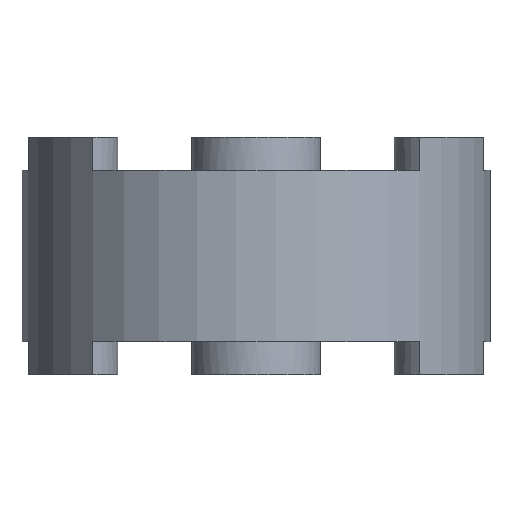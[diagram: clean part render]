
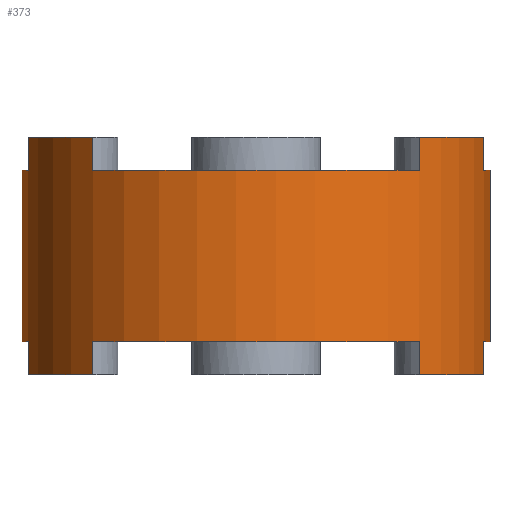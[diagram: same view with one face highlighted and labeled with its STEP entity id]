
A CAD part, front view. The second image highlights one B-rep face of the part: STEP entity #373.
In plain terms, the highlighted cylindrical face has radius 35.5 mm (diameter 71 mm), a full revolution.
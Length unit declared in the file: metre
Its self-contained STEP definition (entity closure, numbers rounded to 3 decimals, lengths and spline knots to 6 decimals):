
#12=LINE('',#662,#24);
#13=LINE('',#666,#25);
#14=LINE('',#667,#26);
#15=LINE('',#671,#27);
#16=LINE('',#672,#28);
#17=LINE('',#676,#29);
#18=LINE('',#677,#30);
#19=LINE('',#681,#31);
#20=LINE('',#682,#32);
#21=LINE('',#686,#33);
#22=LINE('',#687,#34);
#23=LINE('',#691,#35);
#24=VECTOR('',#532,1.);
#25=VECTOR('',#535,1.);
#26=VECTOR('',#536,1.);
#27=VECTOR('',#539,1.);
#28=VECTOR('',#540,1.);
#29=VECTOR('',#543,1.);
#30=VECTOR('',#544,1.);
#31=VECTOR('',#547,1.);
#32=VECTOR('',#548,1.);
#33=VECTOR('',#551,1.);
#34=VECTOR('',#552,1.);
#35=VECTOR('',#555,1.);
#36=CYLINDRICAL_SURFACE('',#433,0.0355);
#71=ORIENTED_EDGE('',*,*,#168,.T.);
#72=ORIENTED_EDGE('',*,*,#179,.T.);
#73=ORIENTED_EDGE('',*,*,#180,.T.);
#74=ORIENTED_EDGE('',*,*,#181,.F.);
#75=ORIENTED_EDGE('',*,*,#174,.T.);
#76=ORIENTED_EDGE('',*,*,#182,.T.);
#77=ORIENTED_EDGE('',*,*,#183,.T.);
#78=ORIENTED_EDGE('',*,*,#184,.F.);
#79=ORIENTED_EDGE('',*,*,#178,.T.);
#80=ORIENTED_EDGE('',*,*,#185,.T.);
#81=ORIENTED_EDGE('',*,*,#186,.T.);
#82=ORIENTED_EDGE('',*,*,#187,.F.);
#83=ORIENTED_EDGE('',*,*,#165,.F.);
#84=ORIENTED_EDGE('',*,*,#188,.F.);
#85=ORIENTED_EDGE('',*,*,#189,.F.);
#86=ORIENTED_EDGE('',*,*,#190,.T.);
#87=ORIENTED_EDGE('',*,*,#161,.F.);
#88=ORIENTED_EDGE('',*,*,#191,.F.);
#89=ORIENTED_EDGE('',*,*,#192,.F.);
#90=ORIENTED_EDGE('',*,*,#193,.T.);
#91=ORIENTED_EDGE('',*,*,#155,.F.);
#92=ORIENTED_EDGE('',*,*,#194,.F.);
#93=ORIENTED_EDGE('',*,*,#195,.F.);
#94=ORIENTED_EDGE('',*,*,#196,.T.);
#155=EDGE_CURVE('',#209,#210,#245,.T.);
#161=EDGE_CURVE('',#214,#215,#251,.T.);
#165=EDGE_CURVE('',#216,#217,#255,.T.);
#168=EDGE_CURVE('',#220,#218,#258,.T.);
#174=EDGE_CURVE('',#222,#224,#264,.T.);
#178=EDGE_CURVE('',#225,#226,#268,.T.);
#179=EDGE_CURVE('',#218,#227,#12,.T.);
#180=EDGE_CURVE('',#227,#228,#269,.T.);
#181=EDGE_CURVE('',#222,#228,#13,.T.);
#182=EDGE_CURVE('',#224,#229,#14,.T.);
#183=EDGE_CURVE('',#229,#230,#270,.T.);
#184=EDGE_CURVE('',#225,#230,#15,.T.);
#185=EDGE_CURVE('',#226,#231,#16,.T.);
#186=EDGE_CURVE('',#231,#232,#271,.T.);
#187=EDGE_CURVE('',#220,#232,#17,.T.);
#188=EDGE_CURVE('',#233,#216,#18,.T.);
#189=EDGE_CURVE('',#234,#233,#272,.T.);
#190=EDGE_CURVE('',#234,#215,#19,.T.);
#191=EDGE_CURVE('',#235,#214,#20,.T.);
#192=EDGE_CURVE('',#236,#235,#273,.T.);
#193=EDGE_CURVE('',#236,#210,#21,.T.);
#194=EDGE_CURVE('',#237,#209,#22,.T.);
#195=EDGE_CURVE('',#238,#237,#274,.T.);
#196=EDGE_CURVE('',#238,#217,#23,.T.);
#209=VERTEX_POINT('',#615);
#210=VERTEX_POINT('',#616);
#214=VERTEX_POINT('',#626);
#215=VERTEX_POINT('',#628);
#216=VERTEX_POINT('',#633);
#217=VERTEX_POINT('',#635);
#218=VERTEX_POINT('',#639);
#220=VERTEX_POINT('',#642);
#222=VERTEX_POINT('',#648);
#224=VERTEX_POINT('',#652);
#225=VERTEX_POINT('',#656);
#226=VERTEX_POINT('',#659);
#227=VERTEX_POINT('',#663);
#228=VERTEX_POINT('',#665);
#229=VERTEX_POINT('',#668);
#230=VERTEX_POINT('',#670);
#231=VERTEX_POINT('',#673);
#232=VERTEX_POINT('',#675);
#233=VERTEX_POINT('',#678);
#234=VERTEX_POINT('',#680);
#235=VERTEX_POINT('',#683);
#236=VERTEX_POINT('',#685);
#237=VERTEX_POINT('',#688);
#238=VERTEX_POINT('',#690);
#245=CIRCLE('',#404,0.0355);
#251=CIRCLE('',#411,0.0355);
#255=CIRCLE('',#416,0.0355);
#258=CIRCLE('',#420,0.0355);
#264=CIRCLE('',#427,0.0355);
#268=CIRCLE('',#432,0.0355);
#269=CIRCLE('',#434,0.0355);
#270=CIRCLE('',#435,0.0355);
#271=CIRCLE('',#436,0.0355);
#272=CIRCLE('',#437,0.0355);
#273=CIRCLE('',#438,0.0355);
#274=CIRCLE('',#439,0.0355);
#293=EDGE_LOOP('',(#71,#72,#73,#74,#75,#76,#77,#78,#79,#80,#81,#82));
#294=EDGE_LOOP('',(#83,#84,#85,#86,#87,#88,#89,#90,#91,#92,#93,#94));
#327=FACE_BOUND('',#293,.T.);
#328=FACE_BOUND('',#294,.T.);
#373=ADVANCED_FACE('',(#327,#328),#36,.T.);
#404=AXIS2_PLACEMENT_3D('',#614,#472,#473);
#411=AXIS2_PLACEMENT_3D('',#627,#486,#487);
#416=AXIS2_PLACEMENT_3D('',#634,#496,#497);
#420=AXIS2_PLACEMENT_3D('',#641,#504,#505);
#427=AXIS2_PLACEMENT_3D('',#653,#518,#519);
#432=AXIS2_PLACEMENT_3D('',#660,#528,#529);
#433=AXIS2_PLACEMENT_3D('',#661,#530,#531);
#434=AXIS2_PLACEMENT_3D('',#664,#533,#534);
#435=AXIS2_PLACEMENT_3D('',#669,#537,#538);
#436=AXIS2_PLACEMENT_3D('',#674,#541,#542);
#437=AXIS2_PLACEMENT_3D('',#679,#545,#546);
#438=AXIS2_PLACEMENT_3D('',#684,#549,#550);
#439=AXIS2_PLACEMENT_3D('',#689,#553,#554);
#472=DIRECTION('',(0.,0.,1.));
#473=DIRECTION('',(1.,0.,0.));
#486=DIRECTION('',(0.,0.,1.));
#487=DIRECTION('',(1.,0.,0.));
#496=DIRECTION('',(0.,0.,1.));
#497=DIRECTION('',(1.,0.,0.));
#504=DIRECTION('',(0.,0.,1.));
#505=DIRECTION('',(1.,0.,0.));
#518=DIRECTION('',(0.,0.,1.));
#519=DIRECTION('',(1.,0.,0.));
#528=DIRECTION('',(0.,0.,1.));
#529=DIRECTION('',(1.,0.,0.));
#530=DIRECTION('',(0.,0.,-1.));
#531=DIRECTION('',(-1.,0.,0.));
#532=DIRECTION('',(0.,0.,-1.));
#533=DIRECTION('',(0.,0.,1.));
#534=DIRECTION('',(1.,0.,0.));
#535=DIRECTION('',(0.,0.,-1.));
#536=DIRECTION('',(0.,0.,-1.));
#537=DIRECTION('',(0.,0.,1.));
#538=DIRECTION('',(1.,0.,0.));
#539=DIRECTION('',(0.,0.,-1.));
#540=DIRECTION('',(0.,0.,-1.));
#541=DIRECTION('',(0.,0.,1.));
#542=DIRECTION('',(1.,0.,0.));
#543=DIRECTION('',(0.,0.,-1.));
#544=DIRECTION('',(0.,0.,-1.));
#545=DIRECTION('',(0.,0.,1.));
#546=DIRECTION('',(1.,0.,0.));
#547=DIRECTION('',(0.,0.,-1.));
#548=DIRECTION('',(0.,0.,-1.));
#549=DIRECTION('',(0.,0.,1.));
#550=DIRECTION('',(1.,0.,0.));
#551=DIRECTION('',(0.,0.,-1.));
#552=DIRECTION('',(0.,0.,-1.));
#553=DIRECTION('',(0.,0.,1.));
#554=DIRECTION('',(1.,0.,0.));
#555=DIRECTION('',(0.,0.,-1.));
#614=CARTESIAN_POINT('',(0.,0.,0.031));
#615=CARTESIAN_POINT('',(0.034444,-0.008594,0.031));
#616=CARTESIAN_POINT('',(0.009779,0.034127,0.031));
#626=CARTESIAN_POINT('',(-0.009779,0.034127,0.031));
#627=CARTESIAN_POINT('',(0.,0.,0.031));
#628=CARTESIAN_POINT('',(-0.034444,-0.008594,0.031));
#633=CARTESIAN_POINT('',(-0.024665,-0.025532,0.031));
#634=CARTESIAN_POINT('',(0.,0.,0.031));
#635=CARTESIAN_POINT('',(0.024665,-0.025532,0.031));
#639=CARTESIAN_POINT('',(0.009779,0.034127,0.005));
#641=CARTESIAN_POINT('',(0.,0.,0.005));
#642=CARTESIAN_POINT('',(0.034444,-0.008594,0.005));
#648=CARTESIAN_POINT('',(-0.009779,0.034127,0.005));
#652=CARTESIAN_POINT('',(-0.034444,-0.008594,0.005));
#653=CARTESIAN_POINT('',(0.,0.,0.005));
#656=CARTESIAN_POINT('',(-0.024665,-0.025532,0.005));
#659=CARTESIAN_POINT('',(0.024665,-0.025532,0.005));
#660=CARTESIAN_POINT('',(0.,0.,0.005));
#661=CARTESIAN_POINT('',(0.,0.,0.031));
#662=CARTESIAN_POINT('',(0.009779,0.034127,0.036));
#663=CARTESIAN_POINT('',(0.009779,0.034127,0.));
#664=CARTESIAN_POINT('',(0.,0.,0.));
#665=CARTESIAN_POINT('',(-0.009779,0.034127,0.));
#666=CARTESIAN_POINT('',(-0.009779,0.034127,0.036));
#667=CARTESIAN_POINT('',(-0.034444,-0.008594,0.036));
#668=CARTESIAN_POINT('',(-0.034444,-0.008594,0.));
#669=CARTESIAN_POINT('',(0.,0.,0.));
#670=CARTESIAN_POINT('',(-0.024665,-0.025532,0.));
#671=CARTESIAN_POINT('',(-0.024665,-0.025532,0.036));
#672=CARTESIAN_POINT('',(0.024665,-0.025532,0.036));
#673=CARTESIAN_POINT('',(0.024665,-0.025532,0.));
#674=CARTESIAN_POINT('',(0.,0.,0.));
#675=CARTESIAN_POINT('',(0.034444,-0.008594,0.));
#676=CARTESIAN_POINT('',(0.034444,-0.008594,0.036));
#677=CARTESIAN_POINT('',(-0.024665,-0.025532,0.036));
#678=CARTESIAN_POINT('',(-0.024665,-0.025532,0.036));
#679=CARTESIAN_POINT('',(0.,0.,0.036));
#680=CARTESIAN_POINT('',(-0.034444,-0.008594,0.036));
#681=CARTESIAN_POINT('',(-0.034444,-0.008594,0.036));
#682=CARTESIAN_POINT('',(-0.009779,0.034127,0.036));
#683=CARTESIAN_POINT('',(-0.009779,0.034127,0.036));
#684=CARTESIAN_POINT('',(0.,0.,0.036));
#685=CARTESIAN_POINT('',(0.009779,0.034127,0.036));
#686=CARTESIAN_POINT('',(0.009779,0.034127,0.036));
#687=CARTESIAN_POINT('',(0.034444,-0.008594,0.036));
#688=CARTESIAN_POINT('',(0.034444,-0.008594,0.036));
#689=CARTESIAN_POINT('',(0.,0.,0.036));
#690=CARTESIAN_POINT('',(0.024665,-0.025532,0.036));
#691=CARTESIAN_POINT('',(0.024665,-0.025532,0.036));
